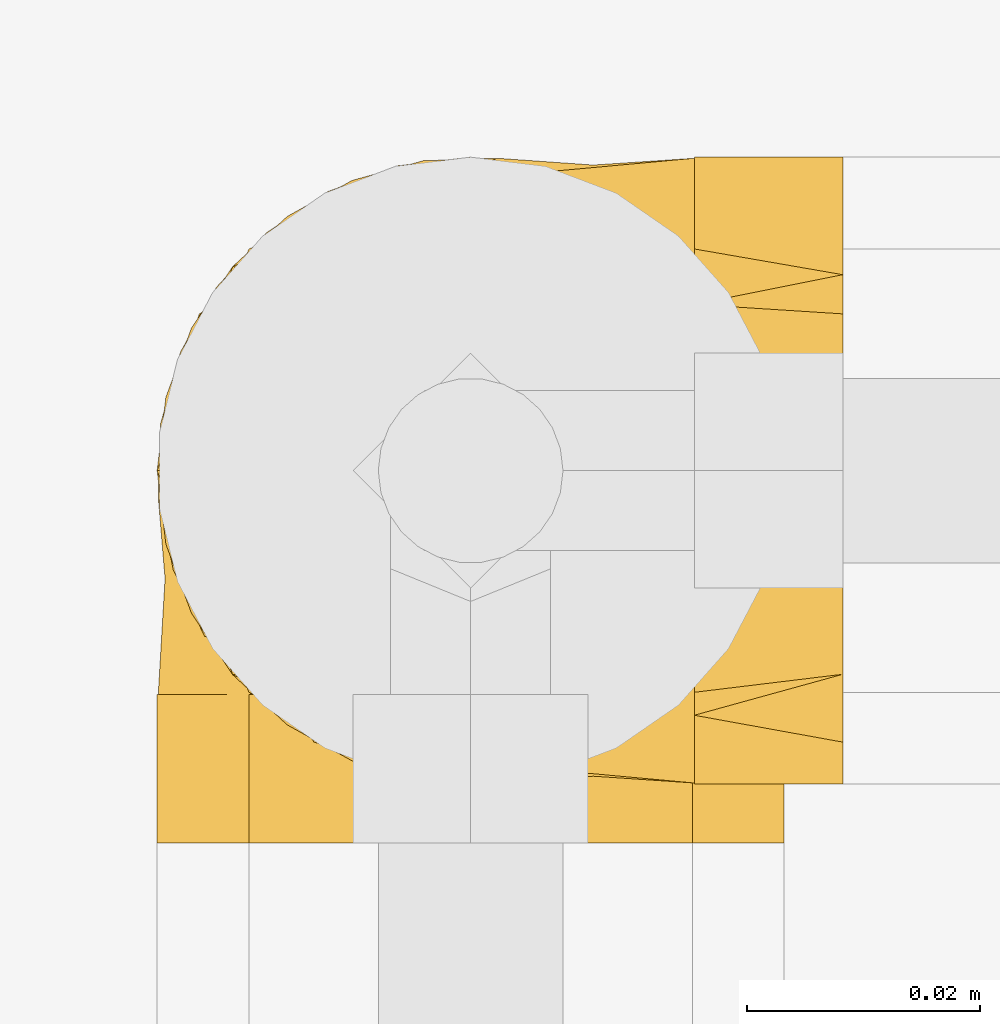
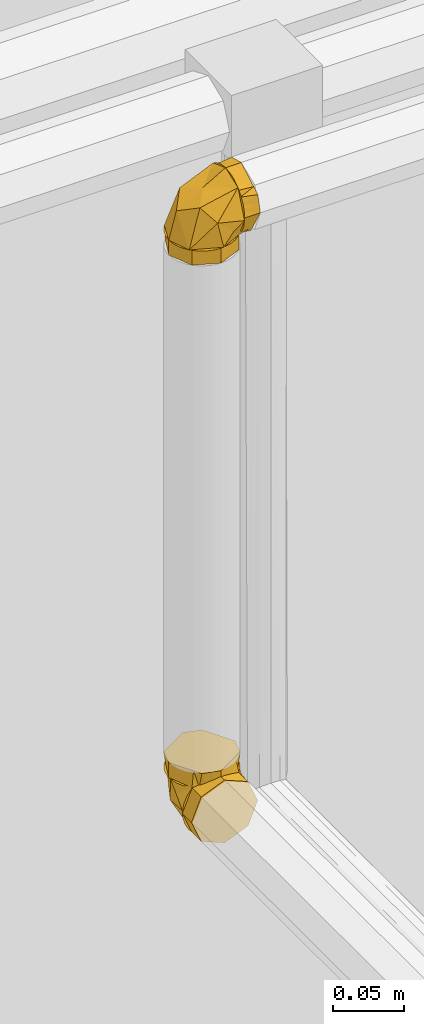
# One storey, part 308 of 652: 2 coverings.
"""IFC2X3 building model written with IfcOpenShell, lengths in millimetres."""

from ifc_helpers import new_model, entity, si_unit, converted_unit, direction, frame, origin, place, context, subcontext, project, spatial, face_set, surface_model, material, type_object, element, save


model = new_model("IFC2X3")

# Units and contexts
model_context = context("Model", 3, precision=0.01, world=frame((0.0, 0.0, 308426.39999999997)), true_north=direction((6.123233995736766e-17, 1.0)))
plan_context = context("Plan", 3, precision=0.01, world=frame((0.0, 0.0, 308426.39999999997)), true_north=direction((6.123233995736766e-17, 1.0)))
body_context = subcontext(model_context, "Body", "Model", "MODEL_VIEW")
ifc_project = project(units=[si_unit("LENGTHUNIT", "METRE", prefix="MILLI"), si_unit("AREAUNIT", "SQUARE_METRE"), si_unit("VOLUMEUNIT", "CUBIC_METRE"), converted_unit("PLANEANGLEUNIT", "DEGREE", entity("IfcPlaneAngleMeasure", 0.017453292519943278), si_unit("PLANEANGLEUNIT", "RADIAN"), dimensions=[0, 0, 0, 0, 0, 0, 0])], contexts=[model_context, plan_context])

# Site, building, storey
site_placement = place(None, origin())
site = spatial("IfcSite", under=ifc_project, at=site_placement, Name="Default", CompositionType="ELEMENT")
building_placement = place(site_placement, origin())
building = spatial("IfcBuilding", under=site, at=building_placement, CompositionType="ELEMENT")
storey_placement = place(building_placement, frame((0.0, 0.0, 1730.6999999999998)))
storey = spatial("IfcBuildingStorey", under=building, at=storey_placement, Name="EG_Produktion_FFB", CompositionType="ELEMENT", Elevation=1730.6999999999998)

# Coverings
ifc_material = material(Name="Dämmung - Armaflex-Schlauch")
covering_type = type_object("IfcCoveringType", Name="Rohrdämmung außen:Armaflex-Schlauch", PredefinedType="INSULATION")
covering_1_placement = place(storey_placement, frame((22460.145549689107, 59718.016249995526, 3371.467227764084)))
element("IfcCovering", 1, at=covering_1_placement, inside=storey, type_object=covering_type, material=ifc_material, Name="Rohrdämmung außen:Armaflex-Schlauch", ObjectType="Rohrdämmung außen:Armaflex-Schlauch", PredefinedType="INSULATION", context=body_context, shape_type="SurfaceModel", body=[
    surface_model("IfcFaceBasedSurfaceModel", [(9.65642195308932, 12.766250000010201, 47.75027223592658), (5.678961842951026, 12.766250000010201, 42.7922342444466), (2.973980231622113, 12.766250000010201, 37.04024292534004), (1.6920879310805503, 12.766250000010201, 30.81456370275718), (1.9046594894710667, 12.766250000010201, 24.46183649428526), (3.5998591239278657, 12.766250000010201, 18.33577512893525), (6.683299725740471, 12.766250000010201, 12.777472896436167), (10.983298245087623, 12.766250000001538, 8.096410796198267), (16.26043484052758, 12.766250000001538, 4.553225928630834), (22.220883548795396, 12.766250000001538, 2.3451994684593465), (28.532772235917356, 12.766250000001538, 1.5952722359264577), (34.84466092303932, 12.766250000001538, 2.3451994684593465), (40.80510963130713, 12.766250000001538, 4.553225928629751), (46.08224622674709, 12.766250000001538, 8.096410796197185), (50.38224474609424, 12.766250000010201, 12.777472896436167), (53.46568534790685, 12.766250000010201, 18.335775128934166), (55.16088498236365, 12.766250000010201, 24.46183649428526), (55.37345654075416, 12.766250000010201, 30.81456370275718), (54.0915642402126, 12.766250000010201, 37.04024292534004), (51.38658262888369, 12.766250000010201, 42.79223424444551), (47.40912251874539, 12.766250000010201, 47.75027223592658), (51.38658262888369, 17.72428799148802, 47.75027223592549), (54.0915642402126, 23.476279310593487, 47.75027223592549), (55.37345654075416, 29.701958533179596, 47.75027223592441), (55.16088498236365, 36.05468574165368, 47.750272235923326), (53.46568534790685, 42.18074710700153, 47.750272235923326), (50.38224474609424, 47.73904933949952, 47.750272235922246), (46.08224622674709, 52.420111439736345, 47.750272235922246), (40.80510963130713, 55.96329630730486, 47.750272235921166), (34.84466092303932, 58.17132276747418, 47.750272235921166), (28.532772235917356, 58.921250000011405, 47.750272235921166), (22.220883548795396, 58.17132276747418, 47.750272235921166), (16.26043484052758, 55.96329630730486, 47.750272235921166), (10.983298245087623, 52.420111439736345, 47.750272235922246), (6.683299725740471, 47.73904933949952, 47.750272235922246), (3.5998591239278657, 42.18074710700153, 47.750272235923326), (1.9046594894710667, 36.05468574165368, 47.750272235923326), (1.6920879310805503, 29.701958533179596, 47.75027223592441), (2.973980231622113, 23.476279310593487, 47.75027223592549), (5.678961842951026, 17.72428799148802, 47.75027223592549), (2.2763924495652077, 22.70933594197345, 39.069538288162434), (28.532929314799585, 35.84341797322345, 7.7790063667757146), (6.336609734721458, 12.76575684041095, 19.45561922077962), (3.599567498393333, 33.56448730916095, 26.951091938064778), (14.284961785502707, 43.18250488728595, 18.6748529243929), (28.532929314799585, 48.3775366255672, 29.48640230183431), (6.336609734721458, 41.061704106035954, 47.75040376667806), (42.78089684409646, 43.18250488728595, 18.6748529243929), (53.466291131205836, 33.56448730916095, 26.951091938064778), (54.78946618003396, 22.70933594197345, 39.069538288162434), (50.72692345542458, 41.061704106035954, 47.75040376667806), (50.72692345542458, 12.76575684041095, 19.45561922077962), (28.532772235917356, 0.0, 1.595272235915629), (33.29469446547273, 0.0, 3.567725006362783), (38.05661669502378, 0.0, 5.540177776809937), (42.81853892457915, 0.0, 7.512630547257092), (47.5804611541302, 0.0, 9.485083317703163), (49.552913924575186, 0.0, 14.247005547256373), (51.5253666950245, 0.0, 19.008927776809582), (53.497819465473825, 0.0, 23.770850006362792), (55.47027223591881, 0.0, 28.532772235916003), (53.49781946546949, 0.0, 33.29469446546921), (51.5253666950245, 0.0, 38.05661669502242), (49.552913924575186, 0.0, 42.818538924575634), (47.5804611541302, 0.0, 47.58046115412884), (42.81853892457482, 0.0, 49.552913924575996), (38.05661669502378, 0.0, 51.525366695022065), (33.29469446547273, 0.0, 53.49781946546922), (28.532772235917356, 0.0, 55.470272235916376), (23.770850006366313, 0.0, 53.49781946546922), (19.008927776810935, 0.0, 51.525366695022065), (14.247005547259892, 0.0, 49.552913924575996), (9.485083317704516, 0.0, 47.58046115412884), (7.512630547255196, 0.0, 42.818538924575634), (5.540177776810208, 0.0, 38.05661669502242), (3.5677250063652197, 0.0, 33.29469446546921), (1.5952722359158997, 0.0, 28.532772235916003), (3.5677250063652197, 0.0, 23.770850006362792), (5.540177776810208, 0.0, 19.008927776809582), (7.512630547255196, 0.0, 14.247005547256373), (9.485083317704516, 0.0, 9.485083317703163), (14.24700554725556, 0.0, 7.512630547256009), (19.008927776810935, 0.0, 5.540177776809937), (23.770850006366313, 0.0, 3.567725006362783), (28.532772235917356, 12.766250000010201, 1.5952722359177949), (23.770850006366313, 12.766250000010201, 3.567725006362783), (19.008927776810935, 12.766250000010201, 5.540177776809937), (14.24700554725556, 12.766250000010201, 7.512630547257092), (9.485083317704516, 12.766250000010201, 9.485083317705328), (7.095738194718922, 12.766250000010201, 15.253472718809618), (4.706393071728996, 12.766250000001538, 21.021862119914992), (1.5952722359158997, 12.766250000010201, 28.532772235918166), (3.5677250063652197, 12.766250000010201, 33.29469446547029), (5.540177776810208, 12.766250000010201, 38.05661669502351), (7.512630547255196, 12.766250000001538, 42.818538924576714), (9.485083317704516, 12.766250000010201, 47.58046115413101), (15.253472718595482, 12.766250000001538, 49.96980627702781), (21.021862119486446, 12.766250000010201, 52.359151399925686), (28.532772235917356, 12.766250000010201, 55.47027223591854), (33.2946944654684, 12.766250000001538, 53.49781946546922), (38.05661669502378, 12.766250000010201, 51.52536669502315), (42.81853892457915, 12.766250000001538, 49.552913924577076), (47.5804611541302, 12.766250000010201, 47.58046115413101), (49.96980627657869, 12.766250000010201, 41.81207175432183), (52.35915139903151, 12.766250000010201, 36.04368235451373), (55.47027223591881, 12.766250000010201, 28.532772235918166), (53.49781946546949, 12.766250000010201, 23.770850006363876), (51.5253666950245, 12.766250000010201, 19.008927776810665), (49.552913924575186, 12.766250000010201, 14.247005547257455), (47.5804611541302, 12.766250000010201, 9.485083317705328), (41.81207177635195, 12.766250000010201, 7.095738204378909), (36.0436823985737, 12.766250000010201, 4.706393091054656), (28.532772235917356, 58.921250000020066, 60.51652223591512), (22.700632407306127, 55.55406250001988, 60.51652223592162), (16.868492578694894, 52.186875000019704, 60.51652223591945), (11.036352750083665, 48.81968750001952, 60.516522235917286), (5.204212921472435, 45.452500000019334, 60.51652223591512), (3.3997425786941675, 38.71812500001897, 60.51652223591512), (1.5952722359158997, 31.98375000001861, 60.51652223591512), (4.962459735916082, 26.151610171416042, 60.51652223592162), (8.329647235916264, 20.319470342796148, 60.51652223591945), (11.696834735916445, 14.487330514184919, 60.516522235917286), (15.064022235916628, 8.65519068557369, 60.51652223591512), (21.79839723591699, 6.850720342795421, 60.51652223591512), (28.532772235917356, 5.046250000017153, 60.51652223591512), (34.36491206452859, 8.413437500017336, 60.51652223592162), (40.197051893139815, 11.780625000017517, 60.51652223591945), (46.029191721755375, 15.147812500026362, 60.516522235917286), (51.86133155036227, 18.51500000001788, 60.51652223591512), (53.66580189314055, 25.249375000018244, 60.51652223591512), (55.47027223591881, 31.98375000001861, 60.51652223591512), (52.10308473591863, 37.81588982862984, 60.51652223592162), (48.73589723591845, 43.64802965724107, 60.51652223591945), (45.3687097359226, 49.4801694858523, 60.516522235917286), (42.00152223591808, 55.312309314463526, 60.51652223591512), (35.26714723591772, 57.1167796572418, 60.51652223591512), (28.532772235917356, 58.921250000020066, 47.75027223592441), (33.2946944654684, 56.94879722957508, 47.75027223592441), (38.05661669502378, 54.97634445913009, 47.75027223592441), (42.81853892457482, 53.00389168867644, 47.750272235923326), (47.5804611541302, 51.03143891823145, 47.75027223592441), (49.552913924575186, 46.26951668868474, 47.75027223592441), (51.5253666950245, 41.50759445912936, 47.75027223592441), (53.497819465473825, 36.745672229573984, 47.75027223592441), (55.47027223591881, 31.98375000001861, 47.75027223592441), (53.497819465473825, 27.221827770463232, 47.75027223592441), (51.5253666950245, 22.459905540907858, 47.75027223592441), (49.552913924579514, 17.697983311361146, 47.75027223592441), (47.5804611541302, 12.93606108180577, 47.75027223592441), (42.81853892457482, 10.963608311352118, 47.75027223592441), (38.05661669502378, 8.99115554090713, 47.75027223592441), (33.29469446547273, 7.018702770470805, 47.75027223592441), (28.532772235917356, 5.046250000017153, 47.75027223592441), (23.770850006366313, 7.018702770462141, 47.75027223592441), (19.008927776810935, 8.99115554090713, 47.75027223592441), (14.247005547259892, 10.963608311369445, 47.75027223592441), (9.485083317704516, 12.93606108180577, 47.75027223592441), (7.512630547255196, 17.697983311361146, 47.75027223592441), (5.540177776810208, 22.459905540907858, 47.75027223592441), (3.5677250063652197, 27.221827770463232, 47.75027223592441), (1.5952722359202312, 31.98375000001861, 47.75027223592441), (3.5677250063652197, 36.745672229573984, 47.75027223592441), (5.540177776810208, 41.50759445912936, 47.75027223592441), (7.512630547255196, 46.26951668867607, 47.750272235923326), (9.485083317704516, 51.03143891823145, 47.75027223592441), (14.24700554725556, 53.00389168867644, 47.75027223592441), (19.008927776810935, 54.97634445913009, 47.75027223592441), (23.77085000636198, 56.94879722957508, 47.750272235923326)], [face_set([[[0, 1, 2, 3, 4, 5, 6, 7, 8, 9, 10, 11, 12, 13, 14, 15, 16, 17, 18, 19]], [[20, 21, 22, 23, 24, 25, 26, 27, 28, 29, 30, 31, 32, 33, 34, 35, 36, 37, 38, 39]], [[0, 40, 3]], [[10, 7, 41]], [[42, 3, 43]], [[40, 43, 3]], [[37, 40, 0]], [[7, 43, 44]], [[45, 41, 44]], [[7, 44, 41]], [[33, 30, 45]], [[45, 44, 33]], [[43, 33, 44]], [[43, 37, 46]], [[43, 7, 42]], [[37, 43, 40]], [[46, 33, 43]], [[13, 10, 41]], [[27, 47, 45]], [[45, 30, 27]], [[48, 47, 27]], [[49, 48, 23]], [[48, 50, 23]], [[45, 47, 41]], [[20, 49, 23]], [[47, 48, 13]], [[17, 49, 20]], [[41, 47, 13]], [[48, 17, 51]], [[48, 27, 50]], [[17, 48, 49]], [[51, 13, 48]]]), face_set([[[52, 53, 54, 55, 56, 57, 58, 59, 60, 61, 62, 63, 64, 65, 66, 67, 68, 69, 70, 71, 72, 73, 74, 75, 76, 77, 78, 79, 80, 81, 82, 83]], [[84, 85, 86, 87, 88, 89, 90, 91, 92, 93, 94, 95, 96, 97, 98, 99, 100, 101, 102, 103, 104, 105, 106, 107, 108, 109, 110, 111]], [[111, 110, 109, 56, 55, 54, 53, 52, 84]], [[56, 109, 108, 107, 106, 105, 60, 59, 58, 57]], [[104, 103, 102, 64, 63, 62, 61, 60, 105]], [[64, 102, 101, 100, 99, 98, 68, 67, 66, 65]], [[97, 96, 95, 72, 71, 70, 69, 68, 98]], [[72, 95, 94, 93, 92, 91, 76, 75, 74, 73]], [[90, 89, 88, 80, 79, 78, 77, 76, 91]], [[80, 88, 87, 86, 85, 84, 52, 83, 82, 81]]]), face_set([[[112, 113, 114, 115, 116, 117, 118, 119, 120, 121, 122, 123, 124, 125, 126, 127, 128, 129, 130, 131, 132, 133, 134, 135]], [[136, 137, 138, 139, 140, 141, 142, 143, 144, 145, 146, 147, 148, 149, 150, 151, 152, 153, 154, 155, 156, 157, 158, 159, 160, 161, 162, 163, 164, 165, 166, 167]], [[155, 121, 156]], [[118, 159, 119]], [[159, 158, 119]], [[123, 154, 153]], [[153, 152, 124]], [[121, 155, 122]], [[120, 158, 157]], [[118, 160, 159]], [[158, 120, 119]], [[124, 123, 153]], [[157, 156, 121]], [[155, 154, 122]], [[123, 122, 154]], [[120, 157, 121]], [[163, 115, 164]], [[112, 167, 113]], [[167, 166, 113]], [[117, 162, 161]], [[161, 160, 118]], [[115, 163, 116]], [[114, 166, 165]], [[112, 136, 167]], [[166, 114, 113]], [[118, 117, 161]], [[165, 164, 115]], [[163, 162, 116]], [[117, 116, 162]], [[114, 165, 115]], [[139, 133, 140]], [[130, 143, 131]], [[143, 142, 131]], [[135, 138, 137]], [[137, 136, 112]], [[133, 139, 134]], [[132, 142, 141]], [[130, 144, 143]], [[142, 132, 131]], [[112, 135, 137]], [[141, 140, 133]], [[139, 138, 134]], [[135, 134, 138]], [[132, 141, 133]], [[147, 127, 148]], [[124, 151, 125]], [[151, 150, 125]], [[129, 146, 145]], [[145, 144, 130]], [[127, 147, 128]], [[126, 150, 149]], [[124, 152, 151]], [[150, 126, 125]], [[130, 129, 145]], [[149, 148, 127]], [[147, 146, 128]], [[129, 128, 146]], [[126, 149, 127]]])]),
])
covering_2_placement = place(storey_placement, frame((22460.145549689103, 59721.46722775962, 3868.0162499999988)))
element("IfcCovering", 2, at=covering_2_placement, inside=storey, type_object=covering_type, material=ifc_material, Name="Rohrdämmung außen:Armaflex-Schlauch", ObjectType="Rohrdämmung außen:Armaflex-Schlauch", PredefinedType="INSULATION", context=body_context, shape_type="SurfaceModel", body=[
    surface_model("IfcFaceBasedSurfaceModel", [(47.750272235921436, 9.65642195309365, 12.766250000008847), (42.792234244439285, 5.678961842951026, 12.766250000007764), (37.040242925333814, 2.973980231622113, 12.766250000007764), (30.81456370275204, 1.6920879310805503, 12.76625000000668), (24.461836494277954, 1.904659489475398, 12.766250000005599), (18.335775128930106, 3.599859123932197, 12.766250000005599), (12.777472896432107, 6.683299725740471, 12.766250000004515), (8.096410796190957, 10.983298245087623, 12.766250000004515), (4.553225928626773, 16.26043484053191, 12.766250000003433), (2.3451994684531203, 22.220883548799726, 12.766250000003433), (1.5952722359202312, 28.532772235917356, 12.766250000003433), (2.3451994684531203, 34.844660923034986, 12.766250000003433), (4.553225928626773, 40.8051096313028, 12.766250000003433), (8.096410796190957, 46.08224622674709, 12.766250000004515), (12.777472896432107, 50.38224474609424, 12.766250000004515), (18.335775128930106, 53.465685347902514, 12.766250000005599), (24.461836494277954, 55.16088498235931, 12.766250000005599), (30.81456370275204, 55.37345654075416, 12.76625000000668), (37.040242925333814, 54.0915642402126, 12.766250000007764), (42.792234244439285, 51.38658262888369, 12.766250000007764), (47.750272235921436, 47.409122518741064, 12.766250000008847), (47.750272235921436, 5.678961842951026, 17.72428799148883), (47.750272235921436, 2.973980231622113, 23.47627931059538), (47.750272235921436, 1.6920879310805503, 29.701958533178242), (47.7502722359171, 1.904659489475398, 36.05468574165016), (47.7502722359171, 3.599859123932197, 42.18074710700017), (47.7502722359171, 6.683299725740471, 47.73904933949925), (47.7502722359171, 10.983298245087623, 52.420111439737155), (47.7502722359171, 16.26043484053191, 55.96329630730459), (47.7502722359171, 22.220883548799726, 58.17132276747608), (47.7502722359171, 28.532772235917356, 58.92125000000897), (47.7502722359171, 34.844660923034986, 58.17132276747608), (47.7502722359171, 40.8051096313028, 55.963296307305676), (47.7502722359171, 46.08224622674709, 52.42011143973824), (47.7502722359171, 50.38224474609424, 47.73904933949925), (47.7502722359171, 53.465685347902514, 42.18074710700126), (47.7502722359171, 55.16088498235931, 36.05468574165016), (47.750272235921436, 55.37345654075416, 29.701958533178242), (47.750272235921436, 54.0915642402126, 23.47627931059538), (47.750272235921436, 51.38658262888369, 17.724287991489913), (39.06949547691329, 2.2779992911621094, 22.7092291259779), (7.77838219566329, 28.53221071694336, 35.84389251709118), (26.951630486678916, 3.5988489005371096, 33.56554321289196), (19.454413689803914, 6.338216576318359, 12.76623138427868), (29.486359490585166, 28.53221071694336, 48.37684844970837), (18.67539147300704, 14.28656862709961, 43.18414215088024), (47.75036095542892, 6.338216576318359, 41.06101593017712), (18.67539147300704, 42.782503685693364, 43.18414215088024), (39.06949547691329, 54.79107302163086, 22.7092291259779), (26.951630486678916, 53.46557253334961, 33.56554321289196), (47.75036095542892, 50.72620485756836, 41.06101593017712), (19.454413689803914, 50.72620485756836, 12.76623138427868), (1.5952722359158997, 28.532772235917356, 0.0), (3.567725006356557, 33.29469446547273, 0.0), (5.540177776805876, 38.05661669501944, 0.0), (7.512630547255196, 42.818538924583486, 0.0), (9.485083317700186, 47.5804611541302, 0.0), (14.24700554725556, 49.552913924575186, 0.0), (19.008927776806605, 51.525366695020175, 0.0), (23.770850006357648, 53.497819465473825, 0.0), (28.532772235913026, 55.47027223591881, 0.0), (33.29469446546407, 53.49781946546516, 0.0), (38.05661669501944, 51.525366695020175, 0.0), (42.81853892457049, 49.552913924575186, 0.0), (47.580461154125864, 47.5804611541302, 0.0), (49.552913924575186, 42.81853892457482, 0.0), (51.525366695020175, 38.05661669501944, 0.0), (53.49781946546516, 33.29469446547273, 0.0), (55.47027223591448, 28.532772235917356, 0.0), (53.49781946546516, 23.77085000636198, 0.0), (51.525366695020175, 19.008927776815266, 0.0), (49.552913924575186, 14.247005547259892, 0.0), (47.580461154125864, 9.485083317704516, 0.0), (42.81853892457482, 7.512630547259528, 0.0), (38.05661669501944, 5.54017777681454, 0.0), (33.29469446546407, 3.567725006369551, 0.0), (28.532772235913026, 1.5952722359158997, 0.0), (23.77085000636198, 3.567725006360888, 0.0), (19.008927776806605, 5.54017777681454, 0.0), (14.247005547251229, 7.512630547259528, 0.0), (9.485083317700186, 9.485083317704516, 0.0), (7.512630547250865, 14.247005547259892, 0.0), (5.540177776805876, 19.008927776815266, 0.0), (3.567725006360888, 23.77085000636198, 0.0), (1.5952722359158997, 28.532772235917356, 12.766250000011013), (3.567725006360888, 23.77085000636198, 12.766250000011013), (5.540177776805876, 19.008927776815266, 12.76625000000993), (7.512630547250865, 14.247005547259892, 12.76625000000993), (9.485083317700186, 9.485083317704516, 12.76625000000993), (15.253472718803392, 7.095738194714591, 12.766250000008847), (21.02186211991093, 4.706393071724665, 12.766250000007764), (28.532772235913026, 1.5952722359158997, 12.76625000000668), (33.29469446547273, 3.567725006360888, 12.766250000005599), (38.05661669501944, 5.54017777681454, 12.766250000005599), (42.81853892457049, 7.512630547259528, 12.766250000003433), (47.580461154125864, 9.485083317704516, 12.766250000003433), (49.96980627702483, 15.253472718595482, 12.766250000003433), (52.359151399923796, 21.021862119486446, 12.766250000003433), (55.47027223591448, 28.532772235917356, 12.76625000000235), (53.49781946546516, 33.29469446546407, 12.76625000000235), (51.525366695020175, 38.05661669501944, 12.766250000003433), (49.552913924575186, 42.81853892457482, 12.766250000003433), (47.580461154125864, 47.5804611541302, 12.766250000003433), (41.81207175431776, 49.96980627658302, 12.766250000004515), (36.04368235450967, 52.359151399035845, 12.766250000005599), (28.532772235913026, 55.47027223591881, 12.76625000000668), (23.770850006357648, 53.497819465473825, 12.766250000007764), (19.008927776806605, 51.525366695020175, 12.766250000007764), (14.247005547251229, 49.552913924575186, 12.766250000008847), (9.485083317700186, 47.5804611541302, 12.76625000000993), (7.095738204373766, 41.81207177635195, 12.76625000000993), (4.706393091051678, 36.0436823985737, 12.76625000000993), (60.516522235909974, 28.532772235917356, 58.92125000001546), (60.51652223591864, 22.700632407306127, 55.554062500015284), (60.51652223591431, 16.868492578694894, 52.1868750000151), (60.516522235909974, 11.036352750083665, 48.819687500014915), (60.516522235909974, 5.204212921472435, 45.45250000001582), (60.516522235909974, 3.3997425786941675, 38.718125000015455), (60.516522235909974, 1.5952722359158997, 31.98375000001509), (60.51652223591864, 4.962459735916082, 26.151610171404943), (60.51652223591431, 8.329647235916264, 20.319470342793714), (60.516522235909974, 11.696834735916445, 14.487330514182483), (60.516522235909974, 15.064022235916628, 8.655190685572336), (60.516522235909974, 21.79839723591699, 6.850720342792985), (60.516522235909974, 28.532772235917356, 5.046250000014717), (60.51652223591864, 34.36491206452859, 8.413437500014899), (60.51652223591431, 40.197051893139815, 11.78062500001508), (60.51652223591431, 46.02919172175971, 15.147812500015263), (60.516522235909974, 51.86133155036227, 18.515000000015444), (60.516522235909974, 53.66580189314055, 25.24937500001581), (60.516522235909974, 55.47027223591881, 31.98375000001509), (60.51652223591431, 52.10308473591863, 37.81588982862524), (60.51652223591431, 48.73589723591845, 43.64802965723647), (60.51652223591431, 45.36870973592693, 49.480169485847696), (60.516522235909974, 42.00152223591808, 55.31230931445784), (60.516522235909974, 35.26714723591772, 57.116779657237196), (47.750272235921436, 28.532772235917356, 58.92125000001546), (47.750272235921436, 33.29469446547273, 56.94879722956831), (47.750272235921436, 38.05661669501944, 54.97634445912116), (47.7502722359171, 42.81853892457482, 53.003891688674), (47.750272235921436, 47.5804611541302, 51.03143891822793), (47.750272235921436, 49.552913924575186, 46.26951668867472), (47.750272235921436, 51.525366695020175, 41.50759445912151), (47.750272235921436, 53.497819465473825, 36.7456722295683), (47.750272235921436, 55.47027223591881, 31.98375000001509), (47.750272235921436, 53.497819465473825, 27.22182777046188), (47.750272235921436, 51.525366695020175, 22.45990554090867), (47.750272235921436, 49.55291392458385, 17.69798331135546), (47.750272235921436, 47.5804611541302, 12.93606108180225), (47.750272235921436, 42.81853892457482, 10.963608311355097), (47.750272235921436, 38.05661669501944, 8.991155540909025), (47.750272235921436, 33.29469446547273, 7.0187027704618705), (47.750272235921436, 28.532772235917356, 5.0462500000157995), (47.750272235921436, 23.77085000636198, 7.0187027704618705), (47.750272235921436, 19.008927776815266, 8.991155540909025), (47.75027223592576, 14.247005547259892, 10.963608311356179), (47.750272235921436, 9.485083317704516, 12.93606108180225), (47.750272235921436, 7.512630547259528, 17.69798331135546), (47.750272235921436, 5.54017777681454, 22.45990554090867), (47.750272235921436, 3.567725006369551, 27.22182777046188), (47.750272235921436, 1.5952722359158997, 31.98375000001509), (47.750272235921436, 3.567725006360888, 36.7456722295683), (47.750272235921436, 5.54017777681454, 41.50759445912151), (47.7502722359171, 7.512630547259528, 46.26951668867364), (47.750272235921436, 9.485083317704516, 51.03143891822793), (47.750272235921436, 14.247005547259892, 53.00389168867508), (47.750272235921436, 19.008927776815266, 54.97634445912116), (47.7502722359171, 23.77085000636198, 56.94879722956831)], [face_set([[[0, 1, 2, 3, 4, 5, 6, 7, 8, 9, 10, 11, 12, 13, 14, 15, 16, 17, 18, 19]], [[20, 21, 22, 23, 24, 25, 26, 27, 28, 29, 30, 31, 32, 33, 34, 35, 36, 37, 38, 39]], [[0, 40, 3]], [[10, 7, 41]], [[23, 42, 40]], [[42, 7, 43]], [[23, 40, 0]], [[3, 40, 42]], [[44, 41, 45]], [[7, 45, 41]], [[27, 30, 44]], [[44, 45, 27]], [[42, 27, 45]], [[42, 23, 46, 27]], [[7, 42, 45]], [[43, 3, 42]], [[13, 10, 41]], [[33, 47, 44]], [[44, 30, 33]], [[48, 49, 37]], [[49, 33, 50, 37]], [[17, 49, 48]], [[44, 47, 41]], [[20, 48, 37]], [[47, 49, 13]], [[17, 48, 20]], [[41, 47, 13]], [[49, 17, 51]], [[33, 49, 47]], [[51, 13, 49]]]), face_set([[[52, 53, 54, 55, 56, 57, 58, 59, 60, 61, 62, 63, 64, 65, 66, 67, 68, 69, 70, 71, 72, 73, 74, 75, 76, 77, 78, 79, 80, 81, 82, 83]], [[84, 85, 86, 87, 88, 89, 90, 91, 92, 93, 94, 95, 96, 97, 98, 99, 100, 101, 102, 103, 104, 105, 106, 107, 108, 109, 110, 111]], [[111, 110, 109, 56, 55, 54, 53, 52, 84]], [[56, 109, 108, 107, 106, 105, 60, 59, 58, 57]], [[104, 103, 102, 64, 63, 62, 61, 60, 105]], [[64, 102, 101, 100, 99, 98, 68, 67, 66, 65]], [[97, 96, 95, 72, 71, 70, 69, 68, 98]], [[72, 95, 94, 93, 92, 91, 76, 75, 74, 73]], [[90, 89, 88, 80, 79, 78, 77, 76, 91]], [[80, 88, 87, 86, 85, 84, 52, 83, 82, 81]]]), face_set([[[112, 113, 114, 115, 116, 117, 118, 119, 120, 121, 122, 123, 124, 125, 126, 127, 128, 129, 130, 131, 132, 133, 134, 135]], [[136, 137, 138, 139, 140, 141, 142, 143, 144, 145, 146, 147, 148, 149, 150, 151, 152, 153, 154, 155, 156, 157, 158, 159, 160, 161, 162, 163, 164, 165, 166, 167]], [[155, 121, 156]], [[118, 159, 119]], [[159, 158, 119]], [[123, 154, 153]], [[153, 152, 124]], [[121, 155, 122]], [[120, 158, 157]], [[118, 160, 159]], [[158, 120, 119]], [[124, 123, 153]], [[157, 156, 121]], [[155, 154, 122]], [[123, 122, 154]], [[120, 157, 121]], [[163, 115, 164]], [[112, 167, 113]], [[167, 166, 113]], [[117, 162, 161]], [[161, 160, 118]], [[115, 163, 116]], [[114, 166, 165]], [[112, 136, 167]], [[166, 114, 113]], [[118, 117, 161]], [[165, 164, 115]], [[163, 162, 116]], [[117, 116, 162]], [[114, 165, 115]], [[139, 133, 140]], [[130, 143, 131]], [[143, 142, 131]], [[135, 138, 137]], [[137, 136, 112]], [[133, 139, 134]], [[132, 142, 141]], [[130, 144, 143]], [[142, 132, 131]], [[112, 135, 137]], [[141, 140, 133]], [[139, 138, 134]], [[135, 134, 138]], [[132, 141, 133]], [[147, 127, 148]], [[124, 151, 125]], [[151, 150, 125]], [[129, 146, 145]], [[145, 144, 130]], [[127, 147, 128]], [[126, 150, 149]], [[124, 152, 151]], [[150, 126, 125]], [[130, 129, 145]], [[149, 148, 127]], [[147, 146, 128]], [[129, 128, 146]], [[126, 149, 127]]])]),
])

save(model, "model.ifc")
